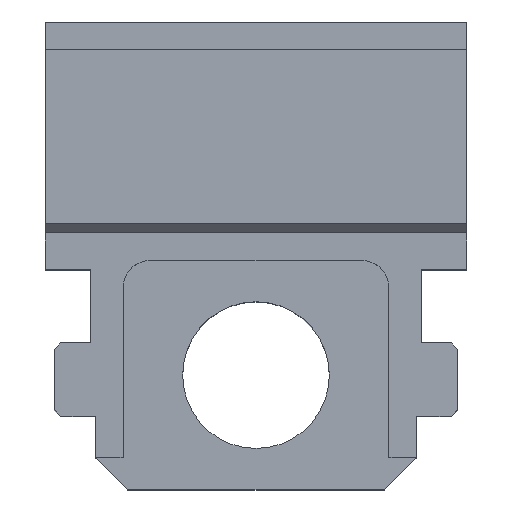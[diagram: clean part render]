
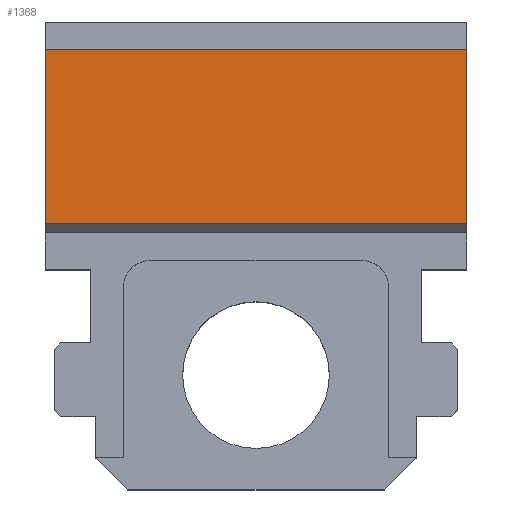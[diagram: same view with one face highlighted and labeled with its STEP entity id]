
A CAD part, top view. The second image highlights one B-rep face of the part: STEP entity #1368.
In plain terms, the highlighted planar face has unit normal (0, 0, 1).
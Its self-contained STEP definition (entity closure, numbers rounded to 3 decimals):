
#32 = FACE_OUTER_BOUND ( 'NONE', #2102, .T. ) ;
#111 = ORIENTED_EDGE ( 'NONE', *, *, #1756, .T. ) ;
#184 = CARTESIAN_POINT ( 'NONE',  ( -23., 62., 18. ) ) ;
#216 = DIRECTION ( 'NONE',  ( -1., 0., 0. ) ) ;
#251 = EDGE_CURVE ( 'NONE', #514, #1010, #1250, .T. ) ;
#375 = VERTEX_POINT ( 'NONE', #184 ) ;
#514 = VERTEX_POINT ( 'NONE', #2291 ) ;
#526 = VECTOR ( 'NONE', #1206, 1000. ) ;
#563 = VECTOR ( 'NONE', #619, 1000. ) ;
#619 = DIRECTION ( 'NONE',  ( 0., -1., 0. ) ) ;
#813 = EDGE_CURVE ( 'NONE', #1010, #2016, #1070, .T. ) ;
#856 = ORIENTED_EDGE ( 'NONE', *, *, #813, .F. ) ;
#920 = CARTESIAN_POINT ( 'NONE',  ( 23., 43., 18. ) ) ;
#1003 = LINE ( 'NONE', #1407, #526 ) ;
#1010 = VERTEX_POINT ( 'NONE', #1507 ) ;
#1024 = VECTOR ( 'NONE', #216, 1000. ) ;
#1070 = LINE ( 'NONE', #920, #1709 ) ;
#1186 = DIRECTION ( 'NONE',  ( 0., 0., -1. ) ) ;
#1206 = DIRECTION ( 'NONE',  ( 0., -1., 0. ) ) ;
#1250 = LINE ( 'NONE', #2489, #563 ) ;
#1368 = ADVANCED_FACE ( 'NONE', ( #32 ), #1691, .F. ) ;
#1407 = CARTESIAN_POINT ( 'NONE',  ( -23., 43., 18. ) ) ;
#1507 = CARTESIAN_POINT ( 'NONE',  ( 23., 43., 18. ) ) ;
#1691 = PLANE ( 'NONE',  #2307 ) ;
#1709 = VECTOR ( 'NONE', #1740, 1000. ) ;
#1740 = DIRECTION ( 'NONE',  ( -1., 0., 0. ) ) ;
#1756 = EDGE_CURVE ( 'NONE', #375, #2016, #1003, .T. ) ;
#1767 = CARTESIAN_POINT ( 'NONE',  ( 23., 43., 18. ) ) ;
#1775 = DIRECTION ( 'NONE',  ( 0., 1., 0. ) ) ;
#1946 = ORIENTED_EDGE ( 'NONE', *, *, #2052, .T. ) ;
#2016 = VERTEX_POINT ( 'NONE', #2438 ) ;
#2052 = EDGE_CURVE ( 'NONE', #514, #375, #2258, .T. ) ;
#2102 = EDGE_LOOP ( 'NONE', ( #111, #856, #2389, #1946 ) ) ;
#2258 = LINE ( 'NONE', #2490, #1024 ) ;
#2291 = CARTESIAN_POINT ( 'NONE',  ( 23., 62., 18. ) ) ;
#2307 = AXIS2_PLACEMENT_3D ( 'NONE', #1767, #1186, #1775 ) ;
#2389 = ORIENTED_EDGE ( 'NONE', *, *, #251, .F. ) ;
#2438 = CARTESIAN_POINT ( 'NONE',  ( -23., 43., 18. ) ) ;
#2489 = CARTESIAN_POINT ( 'NONE',  ( 23., 43., 18. ) ) ;
#2490 = CARTESIAN_POINT ( 'NONE',  ( 23., 62., 18. ) ) ;
